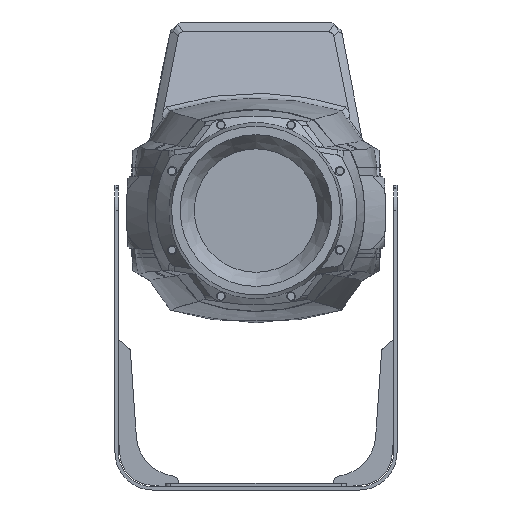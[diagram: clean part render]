
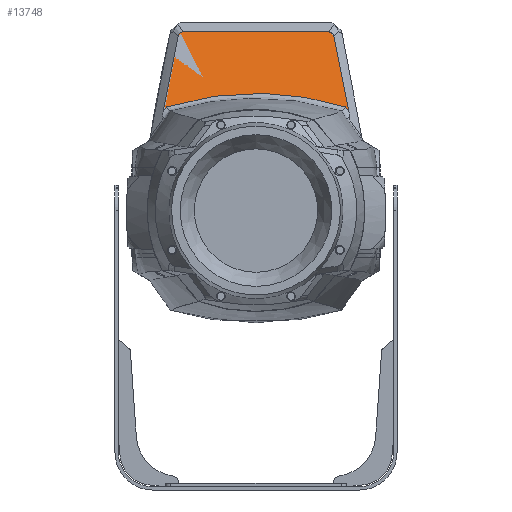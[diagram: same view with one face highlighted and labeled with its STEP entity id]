
A CAD part, front view. The second image highlights one B-rep face of the part: STEP entity #13748.
In plain terms, the highlighted planar face has unit normal (0, -0.961, 0.276) as drawn and (0, -0.961, -0.276) by its records, which use the part's own axes.
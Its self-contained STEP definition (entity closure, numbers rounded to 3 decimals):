
#1136=B_SPLINE_CURVE_WITH_KNOTS('',3,(#29264,#29265,#29266,#29267,#29268,
#29269,#29270),.UNSPECIFIED.,.F.,.F.,(4,1,1,1,4),(0.,0.002,
0.004,0.007,0.009),
 .UNSPECIFIED.);
#1145=B_SPLINE_CURVE_WITH_KNOTS('',3,(#29333,#29334,#29335,#29336,#29337,
#29338,#29339),.UNSPECIFIED.,.F.,.F.,(4,1,1,1,4),(0.,0.002,
0.004,0.007,0.009),
 .UNSPECIFIED.);
#1225=B_SPLINE_CURVE_WITH_KNOTS('',3,(#31103,#31104,#31105,#31106),
 .UNSPECIFIED.,.F.,.F.,(4,4),(0.141,0.875),
 .UNSPECIFIED.);
#1229=B_SPLINE_CURVE_WITH_KNOTS('',3,(#31127,#31128,#31129,#31130),
 .UNSPECIFIED.,.F.,.F.,(4,4),(0.125,0.859),
 .UNSPECIFIED.);
#1230=B_SPLINE_CURVE_WITH_KNOTS('',3,(#31132,#31133,#31134,#31135),
 .UNSPECIFIED.,.F.,.F.,(4,4),(0.,0.007),
 .UNSPECIFIED.);
#1231=B_SPLINE_CURVE_WITH_KNOTS('',3,(#31137,#31138,#31139,#31140,#31141,
#31142,#31143,#31144,#31145,#31146,#31147,#31148,#31149,#31150,#31151,#31152,
#31153,#31154),.UNSPECIFIED.,.F.,.F.,(4,1,1,1,1,1,1,1,1,1,1,1,1,1,1,4),
(0.,0.007,0.013,0.027,0.04,
0.053,0.08,0.093,0.106,
0.133,0.159,0.172,0.186,
0.199,0.206,0.212),.UNSPECIFIED.);
#1232=B_SPLINE_CURVE_WITH_KNOTS('',3,(#31156,#31157,#31158,#31159),
 .UNSPECIFIED.,.F.,.F.,(4,4),(0.,0.007),.UNSPECIFIED.);
#2313=LINE('',#29354,#2934);
#2934=VECTOR('',#16297,1000.);
#5590=ORIENTED_EDGE('',*,*,#8669,.T.);
#5591=ORIENTED_EDGE('',*,*,#8527,.T.);
#5592=ORIENTED_EDGE('',*,*,#8530,.T.);
#5593=ORIENTED_EDGE('',*,*,#8516,.T.);
#5594=ORIENTED_EDGE('',*,*,#8665,.T.);
#5595=ORIENTED_EDGE('',*,*,#8670,.T.);
#5596=ORIENTED_EDGE('',*,*,#8671,.T.);
#5597=ORIENTED_EDGE('',*,*,#8672,.T.);
#8516=EDGE_CURVE('',#10268,#10269,#1136,.T.);
#8527=EDGE_CURVE('',#10280,#10279,#1145,.T.);
#8530=EDGE_CURVE('',#10279,#10268,#2313,.T.);
#8665=EDGE_CURVE('',#10269,#10378,#1225,.T.);
#8669=EDGE_CURVE('',#10381,#10280,#1229,.T.);
#8670=EDGE_CURVE('',#10378,#10382,#1230,.T.);
#8671=EDGE_CURVE('',#10382,#10383,#1231,.T.);
#8672=EDGE_CURVE('',#10383,#10381,#1232,.T.);
#10268=VERTEX_POINT('',#29271);
#10269=VERTEX_POINT('',#29272);
#10279=VERTEX_POINT('',#29332);
#10280=VERTEX_POINT('',#29340);
#10378=VERTEX_POINT('',#31107);
#10381=VERTEX_POINT('',#31131);
#10382=VERTEX_POINT('',#31136);
#10383=VERTEX_POINT('',#31155);
#11614=EDGE_LOOP('',(#5590,#5591,#5592,#5593,#5594,#5595,#5596,#5597));
#12582=FACE_BOUND('',#11614,.T.);
#13148=PLANE('',#14693);
#13748=ADVANCED_FACE('',(#12582),#13148,.T.);
#14693=AXIS2_PLACEMENT_3D('',#31126,#16433,#16434);
#16297=DIRECTION('',(1.,0.,0.));
#16433=DIRECTION('',(0.,-0.961,-0.276));
#16434=DIRECTION('',(0.,-0.276,0.961));
#29264=CARTESIAN_POINT('',(84.761,-11.308,-208.465));
#29265=CARTESIAN_POINT('',(85.519,-11.308,-208.465));
#29266=CARTESIAN_POINT('',(87.029,-11.372,-208.239));
#29267=CARTESIAN_POINT('',(88.978,-11.711,-207.057));
#29268=CARTESIAN_POINT('',(90.282,-12.233,-205.238));
#29269=CARTESIAN_POINT('',(90.745,-12.628,-203.861));
#29270=CARTESIAN_POINT('',(90.903,-12.832,-203.15));
#29271=CARTESIAN_POINT('',(84.761,-11.308,-208.465));
#29272=CARTESIAN_POINT('',(90.903,-12.832,-203.15));
#29332=CARTESIAN_POINT('',(-84.761,-11.308,-208.465));
#29333=CARTESIAN_POINT('',(-90.903,-12.832,-203.15));
#29334=CARTESIAN_POINT('',(-90.745,-12.628,-203.861));
#29335=CARTESIAN_POINT('',(-90.283,-12.234,-205.236));
#29336=CARTESIAN_POINT('',(-88.98,-11.712,-207.055));
#29337=CARTESIAN_POINT('',(-87.034,-11.373,-208.238));
#29338=CARTESIAN_POINT('',(-85.52,-11.308,-208.465));
#29339=CARTESIAN_POINT('',(-84.761,-11.308,-208.465));
#29340=CARTESIAN_POINT('',(-90.903,-12.832,-203.15));
#29354=CARTESIAN_POINT('',(87.059,-11.308,-208.465));
#31103=CARTESIAN_POINT('',(90.903,-12.832,-203.15));
#31104=CARTESIAN_POINT('',(97.42,-21.199,-173.97));
#31105=CARTESIAN_POINT('',(103.234,-29.6,-144.673));
#31106=CARTESIAN_POINT('',(108.345,-38.034,-115.26));
#31107=CARTESIAN_POINT('',(108.345,-38.034,-115.26));
#31126=CARTESIAN_POINT('',(0.,-8.,-220.));
#31127=CARTESIAN_POINT('',(-108.345,-38.034,-115.26));
#31128=CARTESIAN_POINT('',(-103.234,-29.6,-144.673));
#31129=CARTESIAN_POINT('',(-97.42,-21.199,-173.97));
#31130=CARTESIAN_POINT('',(-90.903,-12.832,-203.15));
#31131=CARTESIAN_POINT('',(-108.345,-38.034,-115.26));
#31132=CARTESIAN_POINT('',(108.345,-38.034,-115.26));
#31133=CARTESIAN_POINT('',(107.019,-37.5,-117.122));
#31134=CARTESIAN_POINT('',(105.693,-36.966,-118.984));
#31135=CARTESIAN_POINT('',(104.368,-36.432,-120.846));
#31136=CARTESIAN_POINT('',(104.368,-36.432,-120.846));
#31137=CARTESIAN_POINT('',(104.368,-36.432,-120.846));
#31138=CARTESIAN_POINT('',(102.255,-36.248,-121.488));
#31139=CARTESIAN_POINT('',(98.03,-35.879,-122.774));
#31140=CARTESIAN_POINT('',(89.533,-35.194,-125.163));
#31141=CARTESIAN_POINT('',(78.837,-34.422,-127.856));
#31142=CARTESIAN_POINT('',(65.883,-33.635,-130.602));
#31143=CARTESIAN_POINT('',(48.426,-32.77,-133.618));
#31144=CARTESIAN_POINT('',(30.846,-32.192,-135.631));
#31145=CARTESIAN_POINT('',(13.197,-31.903,-136.639));
#31146=CARTESIAN_POINT('',(-4.54,-31.807,-136.973));
#31147=CARTESIAN_POINT('',(-26.614,-32.052,-136.12));
#31148=CARTESIAN_POINT('',(-48.466,-32.772,-133.61));
#31149=CARTESIAN_POINT('',(-65.828,-33.632,-130.612));
#31150=CARTESIAN_POINT('',(-78.798,-34.419,-127.865));
#31151=CARTESIAN_POINT('',(-89.523,-35.193,-125.165));
#31152=CARTESIAN_POINT('',(-98.028,-35.879,-122.775));
#31153=CARTESIAN_POINT('',(-102.254,-36.248,-121.488));
#31154=CARTESIAN_POINT('',(-104.368,-36.432,-120.846));
#31155=CARTESIAN_POINT('',(-104.368,-36.432,-120.846));
#31156=CARTESIAN_POINT('',(-104.368,-36.432,-120.846));
#31157=CARTESIAN_POINT('',(-105.693,-36.966,-118.984));
#31158=CARTESIAN_POINT('',(-107.019,-37.5,-117.122));
#31159=CARTESIAN_POINT('',(-108.345,-38.034,-115.26));
